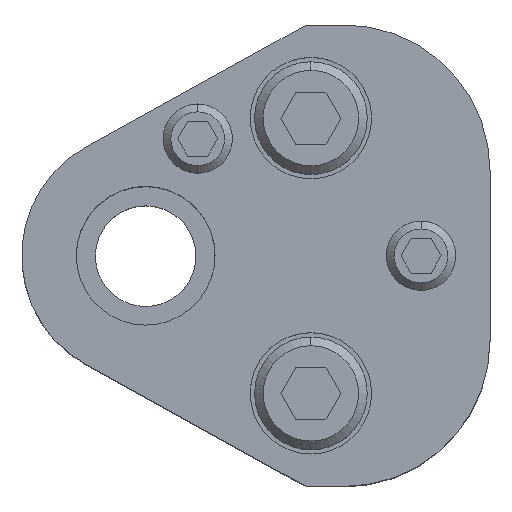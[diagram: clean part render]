
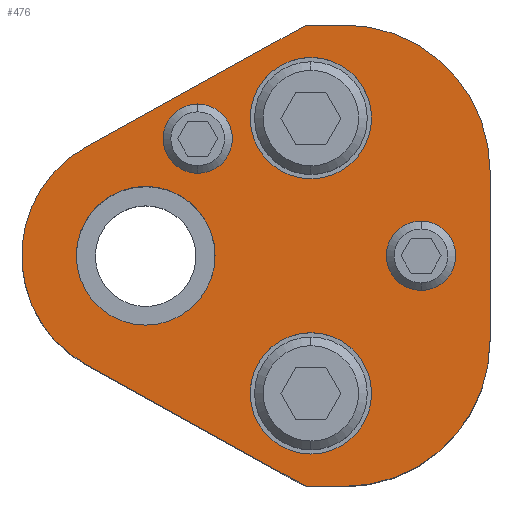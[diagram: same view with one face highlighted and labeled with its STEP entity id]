
A CAD part, top view. The second image highlights one B-rep face of the part: STEP entity #476.
In plain terms, the highlighted planar face has unit normal (0, 0, 1).
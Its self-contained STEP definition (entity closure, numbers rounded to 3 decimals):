
#213=FACE_BOUND('',#843,.T.);
#214=FACE_BOUND('',#844,.T.);
#215=FACE_BOUND('',#845,.T.);
#216=FACE_BOUND('',#846,.T.);
#217=FACE_BOUND('',#847,.T.);
#218=FACE_BOUND('',#848,.T.);
#300=CIRCLE('',#2767,16.8);
#302=CIRCLE('',#2771,16.8);
#304=CIRCLE('',#2776,4.);
#306=CIRCLE('',#2779,4.);
#308=CIRCLE('',#2782,4.);
#310=CIRCLE('',#2785,4.);
#320=CIRCLE('',#2800,14.3);
#321=CIRCLE('',#2801,7.);
#322=CIRCLE('',#2802,7.);
#323=CIRCLE('',#2803,7.);
#324=CIRCLE('',#2804,7.);
#325=CIRCLE('',#2805,8.);
#326=CIRCLE('',#2806,8.);
#476=ADVANCED_FACE('',(#213,#214,#215,#216,#217,#218),#592,.T.);
#592=PLANE('',#2807);
#843=EDGE_LOOP('',(#1250,#1251,#1252,#1253,#1254,#1255,#1256,#1257));
#844=EDGE_LOOP('',(#1258,#1259));
#845=EDGE_LOOP('',(#1260,#1261));
#846=EDGE_LOOP('',(#1262,#1263));
#847=EDGE_LOOP('',(#1264,#1265));
#848=EDGE_LOOP('',(#1266,#1267));
#1250=ORIENTED_EDGE('',*,*,#2066,.T.);
#1251=ORIENTED_EDGE('',*,*,#2024,.T.);
#1252=ORIENTED_EDGE('',*,*,#2028,.T.);
#1253=ORIENTED_EDGE('',*,*,#2031,.T.);
#1254=ORIENTED_EDGE('',*,*,#2034,.T.);
#1255=ORIENTED_EDGE('',*,*,#2037,.T.);
#1256=ORIENTED_EDGE('',*,*,#2040,.T.);
#1257=ORIENTED_EDGE('',*,*,#2067,.T.);
#1258=ORIENTED_EDGE('',*,*,#2068,.F.);
#1259=ORIENTED_EDGE('',*,*,#2069,.F.);
#1260=ORIENTED_EDGE('',*,*,#2070,.F.);
#1261=ORIENTED_EDGE('',*,*,#2071,.F.);
#1262=ORIENTED_EDGE('',*,*,#2052,.F.);
#1263=ORIENTED_EDGE('',*,*,#2048,.F.);
#1264=ORIENTED_EDGE('',*,*,#2046,.F.);
#1265=ORIENTED_EDGE('',*,*,#2042,.F.);
#1266=ORIENTED_EDGE('',*,*,#2072,.T.);
#1267=ORIENTED_EDGE('',*,*,#2073,.T.);
#1749=VERTEX_POINT('',#4092);
#1750=VERTEX_POINT('',#4094);
#1753=VERTEX_POINT('',#4101);
#1755=VERTEX_POINT('',#4107);
#1757=VERTEX_POINT('',#4113);
#1759=VERTEX_POINT('',#4119);
#1761=VERTEX_POINT('',#4125);
#1762=VERTEX_POINT('',#4130);
#1763=VERTEX_POINT('',#4131);
#1766=VERTEX_POINT('',#4142);
#1767=VERTEX_POINT('',#4143);
#1778=VERTEX_POINT('',#4178);
#1779=VERTEX_POINT('',#4181);
#1780=VERTEX_POINT('',#4182);
#1781=VERTEX_POINT('',#4185);
#1782=VERTEX_POINT('',#4186);
#1783=VERTEX_POINT('',#4189);
#1784=VERTEX_POINT('',#4190);
#2024=EDGE_CURVE('',#1750,#1749,#2332,.T.);
#2028=EDGE_CURVE('',#1749,#1753,#300,.T.);
#2031=EDGE_CURVE('',#1753,#1755,#2337,.T.);
#2034=EDGE_CURVE('',#1755,#1757,#302,.T.);
#2037=EDGE_CURVE('',#1757,#1759,#2341,.T.);
#2040=EDGE_CURVE('',#1759,#1761,#2344,.T.);
#2042=EDGE_CURVE('',#1762,#1763,#304,.T.);
#2046=EDGE_CURVE('',#1763,#1762,#306,.T.);
#2048=EDGE_CURVE('',#1766,#1767,#308,.T.);
#2052=EDGE_CURVE('',#1767,#1766,#310,.T.);
#2066=EDGE_CURVE('',#1778,#1750,#2354,.T.);
#2067=EDGE_CURVE('',#1761,#1778,#320,.T.);
#2068=EDGE_CURVE('',#1779,#1780,#321,.T.);
#2069=EDGE_CURVE('',#1780,#1779,#322,.T.);
#2070=EDGE_CURVE('',#1781,#1782,#323,.T.);
#2071=EDGE_CURVE('',#1782,#1781,#324,.T.);
#2072=EDGE_CURVE('',#1783,#1784,#325,.T.);
#2073=EDGE_CURVE('',#1784,#1783,#326,.T.);
#2332=LINE('',#4093,#2533);
#2337=LINE('',#4108,#2538);
#2341=LINE('',#4120,#2542);
#2344=LINE('',#4126,#2545);
#2354=LINE('',#4177,#2555);
#2533=VECTOR('',#3243,1.);
#2538=VECTOR('',#3256,1.);
#2542=VECTOR('',#3268,1.);
#2545=VECTOR('',#3273,1.);
#2555=VECTOR('',#3333,1.);
#2767=AXIS2_PLACEMENT_3D('',#4102,#3249,#3250);
#2771=AXIS2_PLACEMENT_3D('',#4114,#3261,#3262);
#2776=AXIS2_PLACEMENT_3D('',#4129,#3277,#3278);
#2779=AXIS2_PLACEMENT_3D('',#4138,#3285,#3286);
#2782=AXIS2_PLACEMENT_3D('',#4141,#3291,#3292);
#2785=AXIS2_PLACEMENT_3D('',#4150,#3299,#3300);
#2800=AXIS2_PLACEMENT_3D('',#4179,#3334,#3335);
#2801=AXIS2_PLACEMENT_3D('',#4180,#3336,#3337);
#2802=AXIS2_PLACEMENT_3D('',#4183,#3338,#3339);
#2803=AXIS2_PLACEMENT_3D('',#4184,#3340,#3341);
#2804=AXIS2_PLACEMENT_3D('',#4187,#3342,#3343);
#2805=AXIS2_PLACEMENT_3D('',#4188,#3344,#3345);
#2806=AXIS2_PLACEMENT_3D('',#4191,#3346,#3347);
#2807=AXIS2_PLACEMENT_3D('',#4192,#3348,#3349);
#3243=DIRECTION('',(1.,0.,0.));
#3249=DIRECTION('',(0.,0.,1.));
#3250=DIRECTION('',(-0.707,0.707,0.));
#3256=DIRECTION('',(0.,1.,0.));
#3261=DIRECTION('',(0.,0.,1.));
#3262=DIRECTION('',(-0.707,-0.707,0.));
#3268=DIRECTION('',(-1.,0.,0.));
#3273=DIRECTION('',(-0.875,-0.485,0.));
#3277=DIRECTION('',(0.,0.,1.));
#3278=DIRECTION('',(-1.,0.,0.));
#3285=DIRECTION('',(0.,0.,1.));
#3286=DIRECTION('',(1.,0.,0.));
#3291=DIRECTION('',(0.,0.,1.));
#3292=DIRECTION('',(-1.,0.,0.));
#3299=DIRECTION('',(0.,0.,1.));
#3300=DIRECTION('',(1.,0.,0.));
#3333=DIRECTION('',(0.875,-0.485,0.));
#3334=DIRECTION('',(0.,0.,1.));
#3335=DIRECTION('',(1.,0.,0.));
#3336=DIRECTION('',(0.,0.,1.));
#3337=DIRECTION('',(1.,0.,0.));
#3338=DIRECTION('',(0.,0.,1.));
#3339=DIRECTION('',(-1.,0.,0.));
#3340=DIRECTION('',(0.,0.,1.));
#3341=DIRECTION('',(1.,0.,0.));
#3342=DIRECTION('',(0.,0.,1.));
#3343=DIRECTION('',(-1.,0.,0.));
#3344=DIRECTION('',(0.,0.,-1.));
#3345=DIRECTION('',(-1.,0.,0.));
#3346=DIRECTION('',(0.,0.,-1.));
#3347=DIRECTION('',(1.,0.,0.));
#3348=DIRECTION('',(0.,0.,1.));
#3349=DIRECTION('',(-0.875,0.485,0.));
#4092=CARTESIAN_POINT('',(22.9,-26.6,37.));
#4093=CARTESIAN_POINT('',(18.492,-26.6,37.));
#4094=CARTESIAN_POINT('',(18.492,-26.6,37.));
#4101=CARTESIAN_POINT('',(39.7,-9.8,37.));
#4102=CARTESIAN_POINT('',(22.9,-9.8,37.));
#4107=CARTESIAN_POINT('',(39.7,9.8,37.));
#4108=CARTESIAN_POINT('',(39.7,9.8,37.));
#4113=CARTESIAN_POINT('',(22.9,26.6,37.));
#4114=CARTESIAN_POINT('',(22.9,9.8,37.));
#4119=CARTESIAN_POINT('',(18.492,26.6,37.));
#4120=CARTESIAN_POINT('',(18.492,26.6,37.));
#4125=CARTESIAN_POINT('',(-6.933,12.507,37.));
#4126=CARTESIAN_POINT('',(18.492,26.6,37.));
#4129=CARTESIAN_POINT('',(6.,13.5,37.));
#4130=CARTESIAN_POINT('',(6.,9.5,37.));
#4131=CARTESIAN_POINT('',(6.,17.5,37.));
#4138=CARTESIAN_POINT('',(6.,13.5,37.));
#4141=CARTESIAN_POINT('',(31.75,0.,37.));
#4142=CARTESIAN_POINT('',(31.75,-4.,37.));
#4143=CARTESIAN_POINT('',(31.75,4.,37.));
#4150=CARTESIAN_POINT('',(31.75,0.,37.));
#4177=CARTESIAN_POINT('',(18.492,-26.6,37.));
#4178=CARTESIAN_POINT('',(-6.933,-12.507,37.));
#4179=CARTESIAN_POINT('',(0.,0.,37.));
#4180=CARTESIAN_POINT('',(19.05,15.87,37.));
#4181=CARTESIAN_POINT('',(19.05,22.87,37.));
#4182=CARTESIAN_POINT('',(19.05,8.87,37.));
#4183=CARTESIAN_POINT('',(19.05,15.87,37.));
#4184=CARTESIAN_POINT('',(19.05,-15.87,37.));
#4185=CARTESIAN_POINT('',(19.05,-8.87,37.));
#4186=CARTESIAN_POINT('',(19.05,-22.87,37.));
#4187=CARTESIAN_POINT('',(19.05,-15.87,37.));
#4188=CARTESIAN_POINT('',(0.,0.,37.));
#4189=CARTESIAN_POINT('',(0.,8.,37.));
#4190=CARTESIAN_POINT('',(0.,-8.,37.));
#4191=CARTESIAN_POINT('',(0.,0.,37.));
#4192=CARTESIAN_POINT('',(-6.933,-12.507,37.));
